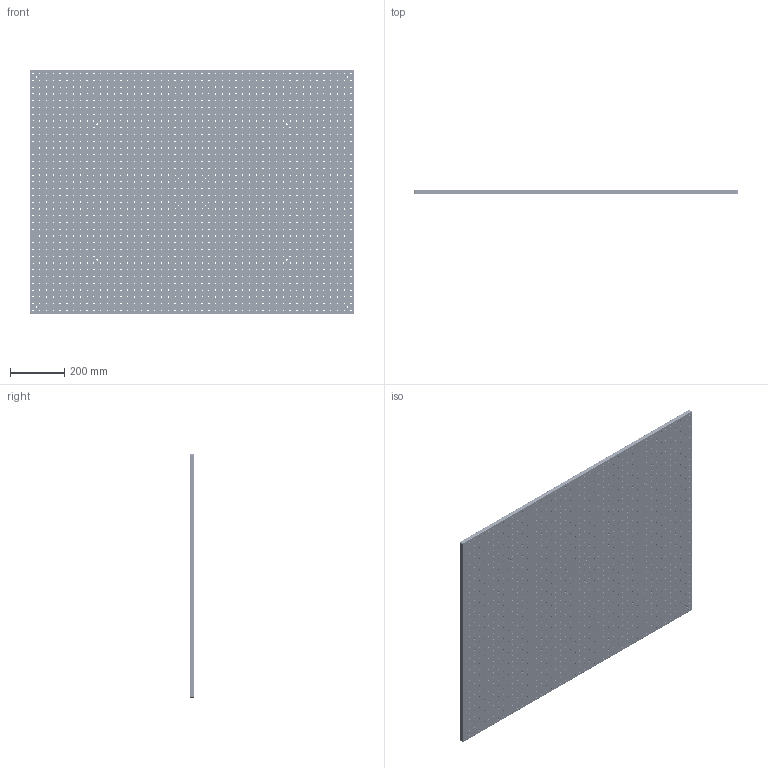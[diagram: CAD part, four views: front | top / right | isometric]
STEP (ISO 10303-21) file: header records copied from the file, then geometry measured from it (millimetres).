
FILE_DESCRIPTION (( 'STEP AP203' ), '1' );
FILE_NAME ('M-SAB-90120-16.step', '2017-01-10T01:17:23', ( '¦K¬P' ), ( '' ), 'SwSTEP 2.0', 'SolidWorks 2012', '' );
FILE_SCHEMA (( 'CONFIG_CONTROL_DESIGN' ));
Length unit declared in the file: millimetre
Products named in the file (1): M-SAB-90120-16
Bounding box: 1200 x 16 x 900 mm (x, y, z)
Volume: 16716071 mm3; surface area: 2590518.5 mm2
Topology: 1 solids, 1 shells, 1790 faces, 5312 edges, 3536 vertices
Faces by surface type: cylinder 1764, plane 18, torus 8
Full cylindrical faces by diameter (mm): 5 x1728, 7 x12, 11 x12
Entity records: 60421 total; most frequent: DIRECTION 10678, CARTESIAN_POINT 8887, ORIENTED_EDGE 7120, EDGE_LOOP 7034, AXIS2_PLACEMENT_3D 5327, EDGE_CURVE 3560, FACE_OUTER_BOUND 3542, VERTEX_POINT 3536
